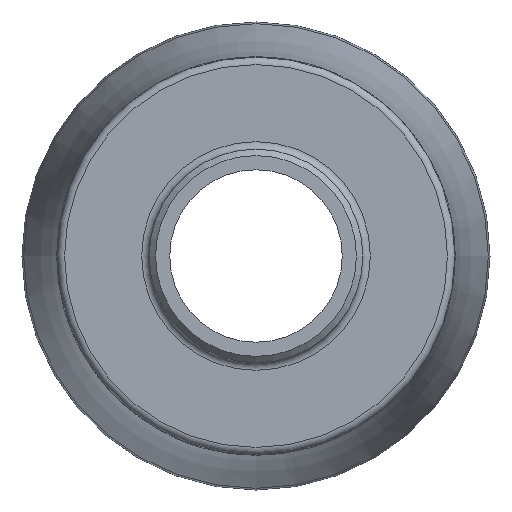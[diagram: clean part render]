
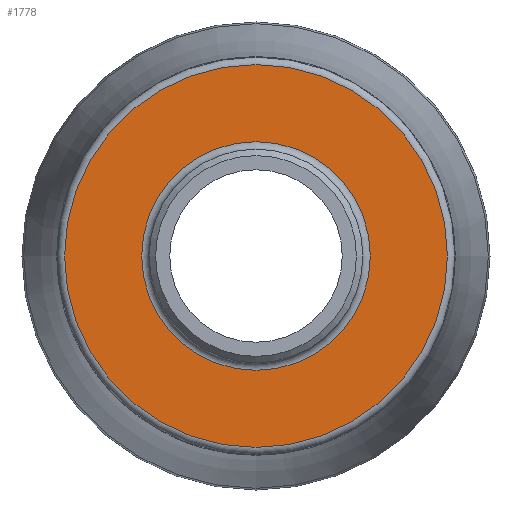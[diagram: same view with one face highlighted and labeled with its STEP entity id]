
A CAD part, left-side view. The second image highlights one B-rep face of the part: STEP entity #1778.
In plain terms, the highlighted planar face has unit normal (-1, 0, 0).
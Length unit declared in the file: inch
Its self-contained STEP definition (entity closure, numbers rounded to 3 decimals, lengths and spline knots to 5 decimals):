
#93=FACE_BOUND('',#322,.T.);
#105=PLANE('',#1973);
#219=FACE_OUTER_BOUND('',#321,.T.);
#321=EDGE_LOOP('',(#1336,#1337));
#322=EDGE_LOOP('',(#1338,#1339));
#639=CIRCLE('',#1971,0.55691);
#640=CIRCLE('',#1972,0.55691);
#641=CIRCLE('',#1974,0.93258);
#642=CIRCLE('',#1975,0.93258);
#770=VERTEX_POINT('',#3158);
#771=VERTEX_POINT('',#3160);
#772=VERTEX_POINT('',#3164);
#773=VERTEX_POINT('',#3165);
#976=EDGE_CURVE('',#770,#771,#639,.T.);
#977=EDGE_CURVE('',#771,#770,#640,.T.);
#978=EDGE_CURVE('',#772,#773,#641,.T.);
#979=EDGE_CURVE('',#773,#772,#642,.T.);
#1336=ORIENTED_EDGE('',*,*,#978,.F.);
#1337=ORIENTED_EDGE('',*,*,#979,.F.);
#1338=ORIENTED_EDGE('',*,*,#977,.F.);
#1339=ORIENTED_EDGE('',*,*,#976,.F.);
#1778=ADVANCED_FACE('',(#219,#93),#105,.T.);
#1971=AXIS2_PLACEMENT_3D('',#3161,#2313,#2314);
#1972=AXIS2_PLACEMENT_3D('',#3162,#2315,#2316);
#1973=AXIS2_PLACEMENT_3D('',#3163,#2317,#2318);
#1974=AXIS2_PLACEMENT_3D('',#3166,#2319,#2320);
#1975=AXIS2_PLACEMENT_3D('',#3167,#2321,#2322);
#2313=DIRECTION('center_axis',(-1.,0.,0.));
#2314=DIRECTION('ref_axis',(0.,-1.,0.));
#2315=DIRECTION('center_axis',(-1.,0.,0.));
#2316=DIRECTION('ref_axis',(0.,-1.,0.));
#2317=DIRECTION('center_axis',(-1.,0.,0.));
#2318=DIRECTION('ref_axis',(0.,0.,1.));
#2319=DIRECTION('center_axis',(1.,0.,0.));
#2320=DIRECTION('ref_axis',(0.,-1.,0.));
#2321=DIRECTION('center_axis',(1.,0.,0.));
#2322=DIRECTION('ref_axis',(0.,-1.,0.));
#3158=CARTESIAN_POINT('',(0.67,0.,0.55691));
#3160=CARTESIAN_POINT('',(0.67,0.55691,0.));
#3161=CARTESIAN_POINT('Origin',(0.67,0.,0.));
#3162=CARTESIAN_POINT('Origin',(0.67,0.,0.));
#3163=CARTESIAN_POINT('Origin',(0.67,0.969,0.));
#3164=CARTESIAN_POINT('',(0.67,0.93258,0.));
#3165=CARTESIAN_POINT('',(0.67,0.,0.93258));
#3166=CARTESIAN_POINT('Origin',(0.67,0.,0.));
#3167=CARTESIAN_POINT('Origin',(0.67,0.,0.));
